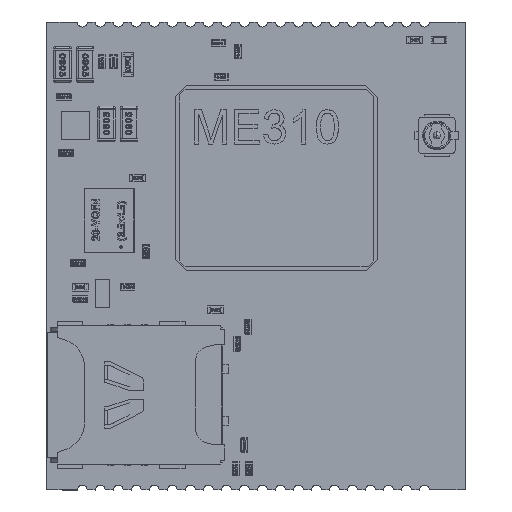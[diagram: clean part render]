
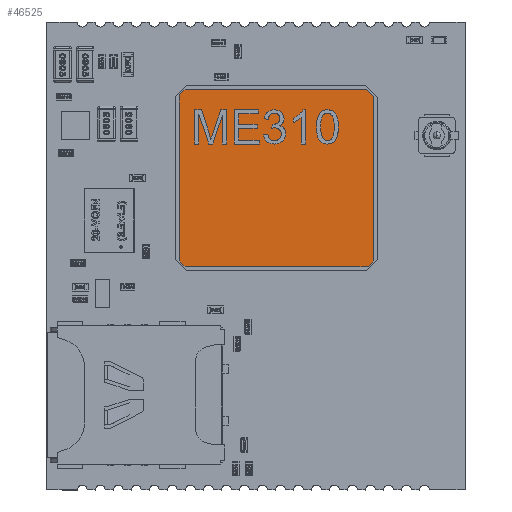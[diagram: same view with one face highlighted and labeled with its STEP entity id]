
A CAD part, top view. The second image highlights one B-rep face of the part: STEP entity #46525.
In plain terms, the highlighted planar face has unit normal (0, 0, 1).
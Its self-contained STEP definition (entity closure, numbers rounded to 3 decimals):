
#46268 = VERTEX_POINT('',#46269);
#46269 = CARTESIAN_POINT('',(-6.85,-5.85,1.8));
#46275 = EDGE_CURVE('',#46268,#46276,#46278,.T.);
#46276 = VERTEX_POINT('',#46277);
#46277 = CARTESIAN_POINT('',(-6.45,-6.25,1.8));
#46278 = LINE('',#46279,#46280);
#46279 = CARTESIAN_POINT('',(-6.85,-5.85,1.8));
#46280 = VECTOR('',#46281,1.);
#46281 = DIRECTION('',(0.707,-0.707,0.));
#46306 = EDGE_CURVE('',#46276,#46307,#46309,.T.);
#46307 = VERTEX_POINT('',#46308);
#46308 = CARTESIAN_POINT('',(6.45,-6.25,1.8));
#46309 = LINE('',#46310,#46311);
#46310 = CARTESIAN_POINT('',(-6.45,-6.25,1.8));
#46311 = VECTOR('',#46312,1.);
#46312 = DIRECTION('',(1.,0.,0.));
#46337 = EDGE_CURVE('',#46307,#46338,#46340,.T.);
#46338 = VERTEX_POINT('',#46339);
#46339 = CARTESIAN_POINT('',(6.85,-5.85,1.8));
#46340 = LINE('',#46341,#46342);
#46341 = CARTESIAN_POINT('',(6.45,-6.25,1.8));
#46342 = VECTOR('',#46343,1.);
#46343 = DIRECTION('',(0.707,0.707,0.));
#46368 = EDGE_CURVE('',#46338,#46369,#46371,.T.);
#46369 = VERTEX_POINT('',#46370);
#46370 = CARTESIAN_POINT('',(6.85,5.75,1.8));
#46371 = LINE('',#46372,#46373);
#46372 = CARTESIAN_POINT('',(6.85,-5.85,1.8));
#46373 = VECTOR('',#46374,1.);
#46374 = DIRECTION('',(0.,1.,0.));
#46399 = EDGE_CURVE('',#46369,#46400,#46402,.T.);
#46400 = VERTEX_POINT('',#46401);
#46401 = CARTESIAN_POINT('',(6.35,6.25,1.8));
#46402 = LINE('',#46403,#46404);
#46403 = CARTESIAN_POINT('',(6.85,5.75,1.8));
#46404 = VECTOR('',#46405,1.);
#46405 = DIRECTION('',(-0.707,0.707,0.));
#46430 = EDGE_CURVE('',#46400,#46431,#46433,.T.);
#46431 = VERTEX_POINT('',#46432);
#46432 = CARTESIAN_POINT('',(-6.45,6.25,1.8));
#46433 = LINE('',#46434,#46435);
#46434 = CARTESIAN_POINT('',(6.35,6.25,1.8));
#46435 = VECTOR('',#46436,1.);
#46436 = DIRECTION('',(-1.,0.,0.));
#46461 = EDGE_CURVE('',#46431,#46462,#46464,.T.);
#46462 = VERTEX_POINT('',#46463);
#46463 = CARTESIAN_POINT('',(-6.85,5.85,1.8));
#46464 = LINE('',#46465,#46466);
#46465 = CARTESIAN_POINT('',(-6.45,6.25,1.8));
#46466 = VECTOR('',#46467,1.);
#46467 = DIRECTION('',(-0.707,-0.707,0.));
#46492 = EDGE_CURVE('',#46462,#46268,#46493,.T.);
#46493 = LINE('',#46494,#46495);
#46494 = CARTESIAN_POINT('',(-6.85,5.85,1.8));
#46495 = VECTOR('',#46496,1.);
#46496 = DIRECTION('',(0.,-1.,0.));
#46525 = ADVANCED_FACE('',(#46526),#46536,.F.);
#46526 = FACE_BOUND('',#46527,.T.);
#46527 = EDGE_LOOP('',(#46528,#46529,#46530,#46531,#46532,#46533,#46534,
    #46535));
#46528 = ORIENTED_EDGE('',*,*,#46275,.T.);
#46529 = ORIENTED_EDGE('',*,*,#46306,.T.);
#46530 = ORIENTED_EDGE('',*,*,#46337,.T.);
#46531 = ORIENTED_EDGE('',*,*,#46368,.T.);
#46532 = ORIENTED_EDGE('',*,*,#46399,.T.);
#46533 = ORIENTED_EDGE('',*,*,#46430,.T.);
#46534 = ORIENTED_EDGE('',*,*,#46461,.T.);
#46535 = ORIENTED_EDGE('',*,*,#46492,.T.);
#46536 = PLANE('',#46537);
#46537 = AXIS2_PLACEMENT_3D('',#46538,#46539,#46540);
#46538 = CARTESIAN_POINT('',(-6.85,-5.85,1.8));
#46539 = DIRECTION('',(0.,0.,-1.));
#46540 = DIRECTION('',(-1.,0.,0.));
